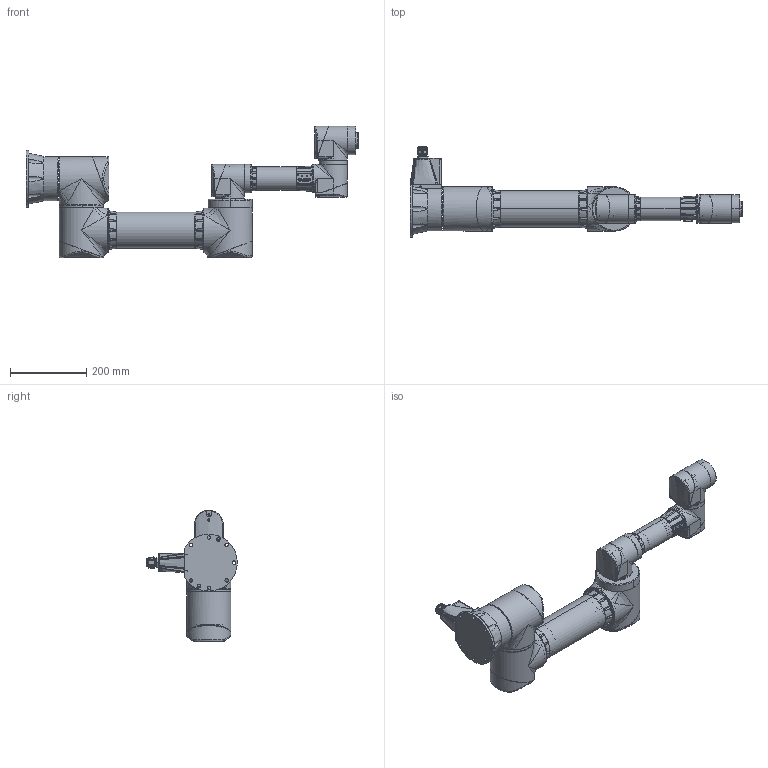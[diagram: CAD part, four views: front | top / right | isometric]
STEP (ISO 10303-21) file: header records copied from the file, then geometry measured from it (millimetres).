
FILE_DESCRIPTION((''),'2;1');
FILE_NAME('ZRA_0507N_ASM','2022-11-10T09:16:31',('ChoSeongHee'),(''),'CREO PARAMETRIC BY PTC INC, 2020354','CREO PARAMETRIC BY PTC INC, 2020354','');
FILE_SCHEMA(('CONFIG_CONTROL_DESIGN'));
Products named in the file (25): FLANGE_B; HOLDER_M; COVER_M; MODULE_M_ASM; RING_M; ARM1_PIPE; FLANGE_ARM1; ARM1_ASM; FLANGE_J3; HOLDER_S; COVER_S; MODULE_S_ASM; PIPE2; FLANGE_J4; FLANGE_J5; PLATE; PORT; ARM2_ASM; FLANGE_E; RING_S; COVER_J; CABLE; PLATE_J; COVER_J_ASM; ZRA_0507N_ASM
Assembly tree (29 placements, depth 3):
  ZRA_0507N_ASM
    FLANGE_B
    MODULE_M_ASM  x3
      HOLDER_M
      COVER_M
    RING_M
    ARM1_ASM
      ARM1_PIPE
      FLANGE_ARM1  x2
    FLANGE_J3
    MODULE_S_ASM  x3
      HOLDER_S
      COVER_S
    ARM2_ASM
      PIPE2
      FLANGE_J4
      FLANGE_J5
      PLATE
      PORT
    FLANGE_E
    RING_S
    COVER_J_ASM
      COVER_J
      CABLE
      PLATE_J
Bounding box: 870.1 x 237.3 x 344.89 mm (x, y, z)
Volume: 11640315.1 mm3; surface area: 900621.1 mm2
Topology: 28 solids, 212 shells, 3861 faces, 10478 edges, 6914 vertices
Faces by surface type: cylinder 1409, plane 1297, bspline 650, torus 269, cone 210, sphere 18, extrusion 8
Entity records: 146255 total; most frequent: CARTESIAN_POINT 72340, ORIENTED_EDGE 16264, DIRECTION 13894, EDGE_CURVE 8266, VERTEX_POINT 5414, AXIS2_PLACEMENT_3D 5218, VECTOR 3458, LINE 3450
